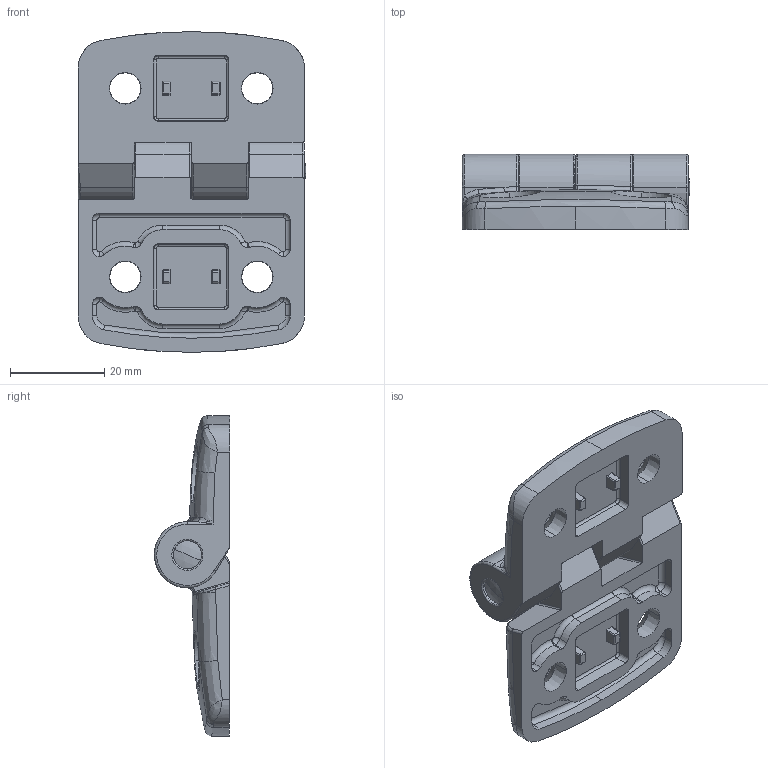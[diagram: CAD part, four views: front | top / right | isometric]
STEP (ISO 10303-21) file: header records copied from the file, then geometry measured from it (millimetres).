
FILE_DESCRIPTION (( 'STEP AP214' ), '1' );
FILE_NAME ('095A3045F.STEP', '2013-06-18T15:53:01', ( 'User' ), ( '' ), 'SwSTEP 2.0', 'SolidWorks 2012', '' );
FILE_SCHEMA (( 'AUTOMOTIVE_DESIGN' ));
Length unit declared in the file: millimetre
Products named in the file (4): Achse6x45_Standard; 095a25f_095A30F - 114339; 095a40f_095A40FB - 127447; 095A3045F
Assembly tree (3 placements, depth 2):
  095A3045F
    095a40f_095A40FB - 127447
    095a25f_095A30F - 114339
    Achse6x45_Standard
Bounding box: 48.32 x 15.95 x 68 mm (x, y, z)
Volume: 21007.7 mm3; surface area: 12480 mm2
Topology: 3 solids, 3 shells, 363 faces, 895 edges, 530 vertices
Faces by surface type: cylinder 131, torus 70, bspline 67, plane 63, cone 27, sphere 5
Entity records: 13677 total; most frequent: CARTESIAN_POINT 5422, ORIENTED_EDGE 1764, DIRECTION 1673, EDGE_CURVE 882, AXIS2_PLACEMENT_3D 690, VERTEX_POINT 530, CIRCLE 388, EDGE_LOOP 384
